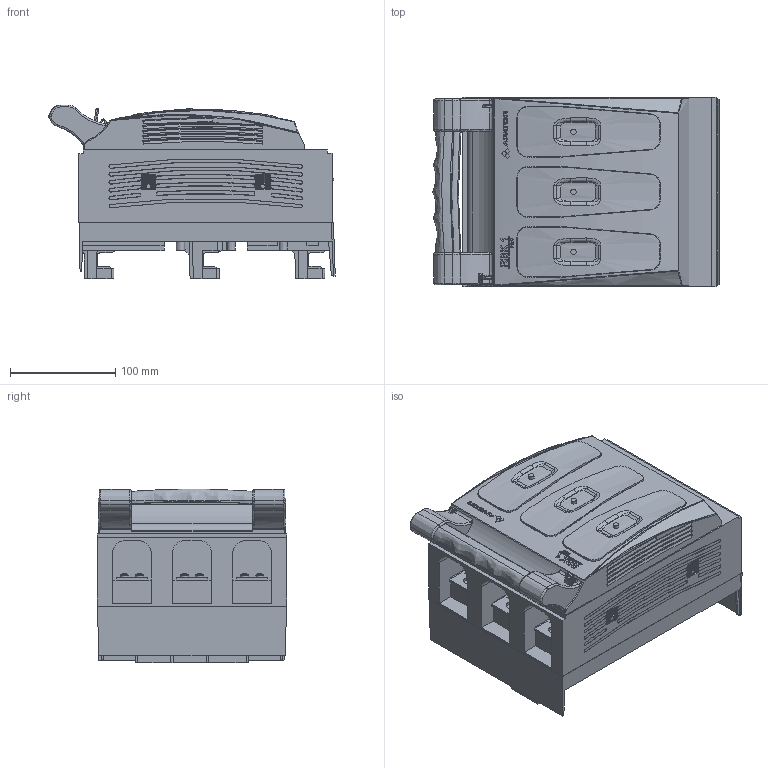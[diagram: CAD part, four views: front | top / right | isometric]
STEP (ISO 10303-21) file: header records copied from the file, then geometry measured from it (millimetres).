
FILE_DESCRIPTION(/* description */ (''),/* implementation_level */ '2;1');
FILE_NAME(/* name */ 'RBK 1 pro-SG-100.stp',/* time_stamp */ '2020-09-04T13:05:54+02:00',/* author */ (''),/* organization */ (''),/* preprocessor_version */ 'ST-DEVELOPER v16',/* originating_system */ 'SIEMENS PLM Software NX 10.0',/* authorisation */ '');
FILE_SCHEMA (('AUTOMOTIVE_DESIGN { 1 0 10303 214 3 1 1 1 }'));
Products named in the file (1): Apat114841204rp6
Bounding box: 271.82 x 180 x 165 mm (x, y, z)
Volume: 4604590.3 mm3; surface area: 314051.2 mm2
Topology: 1 solids, 14 shells, 2570 faces, 6892 edges, 4394 vertices
Faces by surface type: plane 1631, cylinder 307, bspline 305, cone 145, torus 82, extrusion 52, sphere 30, revolution 18
Full cylindrical faces by diameter (mm): 4.5 x3, 11 x3
Entity records: 95021 total; most frequent: CARTESIAN_POINT 32078, ORIENTED_EDGE 13586, DIRECTION 12656, EDGE_CURVE 6793, AXIS2_PLACEMENT_3D 4596, VERTEX_POINT 4374, VECTOR 3446, LINE 3394
